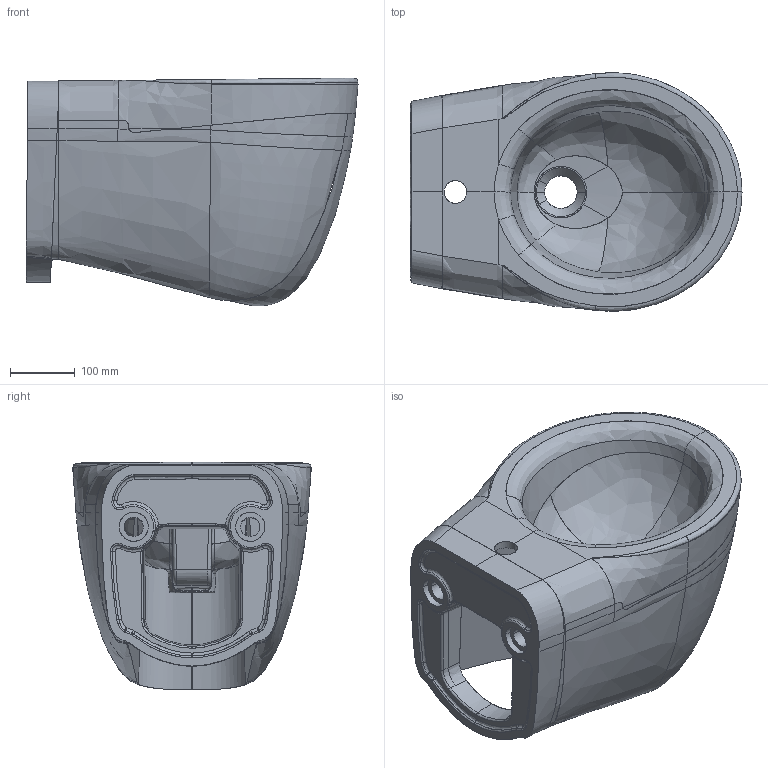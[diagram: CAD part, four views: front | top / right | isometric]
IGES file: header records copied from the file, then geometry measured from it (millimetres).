
Start section: START RECORD GO HERE.
Global section: file name: 7110_3D.igs; native system: DASSAULT SYSTEMES CATIA V5 R19 - www.3ds.com; preprocessor: CATIA Version 5 Release 19 SP 5 ; author: Luca; organization: DESKTOP-V7SON24; date: 20201027.125426; units: millimetre
Bounding box: 512.8 x 368.71 x 351.96 mm (x, y, z)
Surface area: 1117950.6 mm2 (no closed solid volume)
Topology: 0 solids, 0 shells, 448 faces, 2388 edges, 2371 vertices
Faces by surface type: bspline 335, revolution 87, plane 24, extrusion 2
